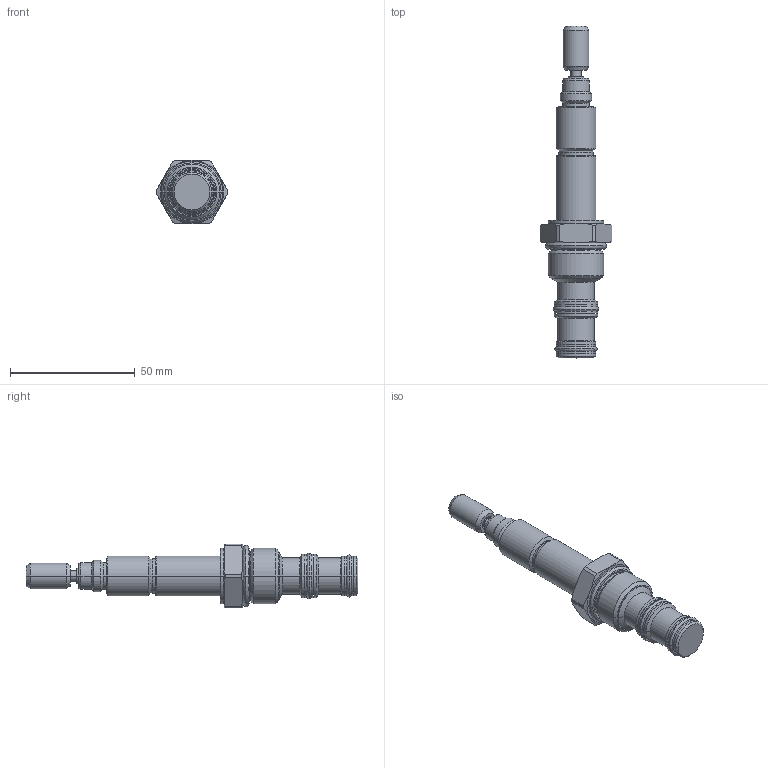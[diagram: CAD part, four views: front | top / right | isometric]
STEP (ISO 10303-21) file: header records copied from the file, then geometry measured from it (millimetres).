
FILE_DESCRIPTION((''),'2;1');
FILE_NAME('PRT0008','2009-03-02T',('JCS'),(''),'PRO/ENGINEER BY PARAMETRIC TECHNOLOGY CORPORATION, 2008010','PRO/ENGINEER BY PARAMETRIC TECHNOLOGY CORPORATION, 2008010','');
FILE_SCHEMA(('CONFIG_CONTROL_DESIGN'));
Length unit declared in the file: inch
Products named in the file (1): PRT0008
Bounding box: 28.57 x 132.84 x 25.4 mm (x, y, z)
Volume: 27771.6 mm3; surface area: 10001 mm2
Topology: 4 solids, 4 shells, 203 faces, 422 edges, 244 vertices
Faces by surface type: cylinder 68, cone 58, plane 31, revolution 28, torus 18
Entity records: 5874 total; most frequent: CARTESIAN_POINT 1437, DIRECTION 992, ORIENTED_EDGE 844, EDGE_CURVE 422, AXIS2_PLACEMENT_3D 419, VERTEX_POINT 244, CIRCLE 244, EDGE_LOOP 226
